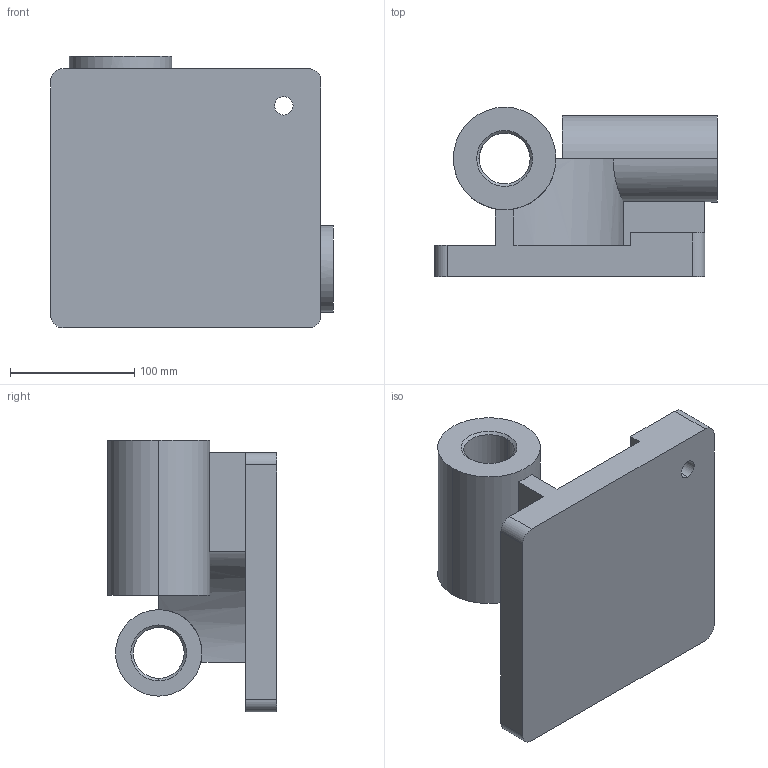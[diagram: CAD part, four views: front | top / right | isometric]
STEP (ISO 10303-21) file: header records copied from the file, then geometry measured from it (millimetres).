
FILE_DESCRIPTION (( 'STEP AP203' ), '1' );
FILE_NAME ('CSWP-Sample - Q3.STEP', '2019-10-03T02:11:50', ( '' ), ( '' ), 'SwSTEP 2.0', 'SolidWorks 2019', '' );
FILE_SCHEMA (( 'CONFIG_CONTROL_DESIGN' ));
Length unit declared in the file: millimetre
Products named in the file (1): CSWP-Sample - Q3
Bounding box: 228 x 136.33 x 219 mm (x, y, z)
Volume: 1961098.8 mm3; surface area: 247148.4 mm2
Topology: 1 solids, 1 shells, 62 faces, 162 edges, 104 vertices
Faces by surface type: cylinder 27, plane 27, cone 8
Entity records: 2123 total; most frequent: CARTESIAN_POINT 457, DIRECTION 348, ORIENTED_EDGE 324, EDGE_CURVE 162, AXIS2_PLACEMENT_3D 127, VERTEX_POINT 104, LINE 94, VECTOR 94
